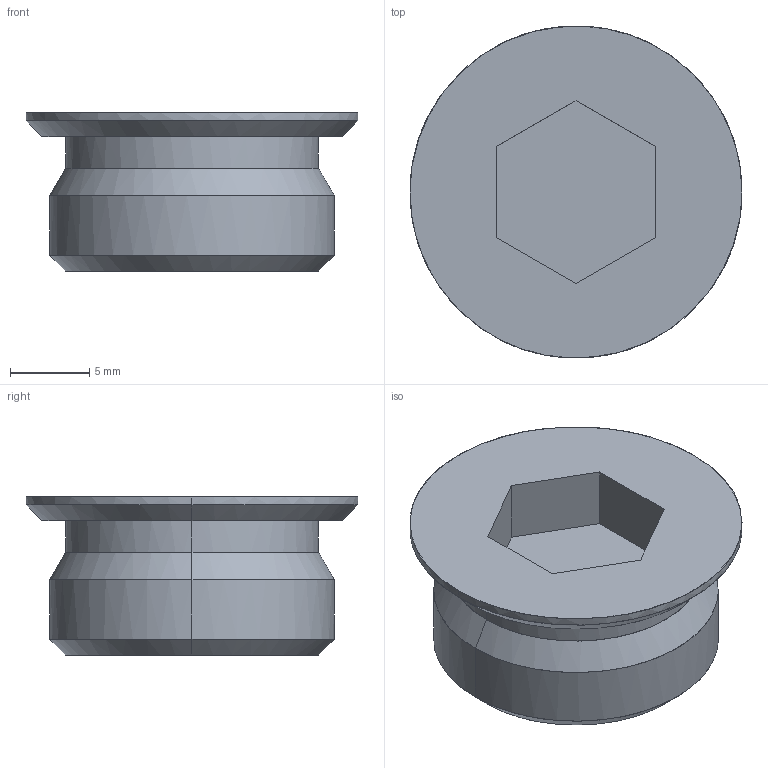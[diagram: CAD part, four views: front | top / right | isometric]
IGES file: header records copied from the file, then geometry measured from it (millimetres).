
Global section: file name: E:\UnigraphicsGraphicData\MISUMI_PRESS-PARTS\IGES\3d_mswzs18-10_00492_r00.igs; native system: NX V5.0; preprocessor: UGS NX IGES V5.0; author: MISUMI; date: 20110105.161530; units: millimetre
Bounding box: 21 x 21 x 10 mm (x, y, z)
Surface area: 1388.3 mm2 (no closed solid volume)
Topology: 0 solids, 0 shells, 22 faces, 116 edges, 116 vertices
Faces by surface type: bspline 22
